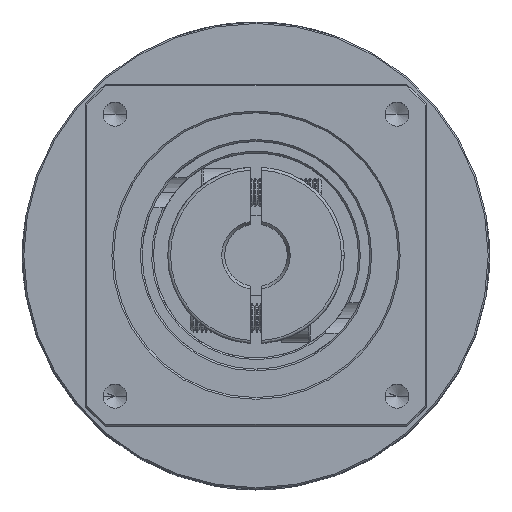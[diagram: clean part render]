
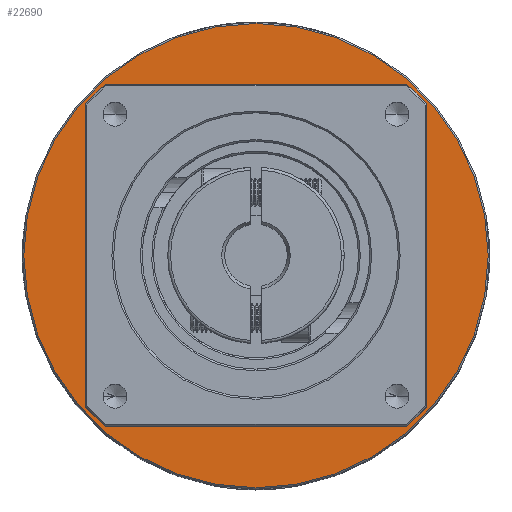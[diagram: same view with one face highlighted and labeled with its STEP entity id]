
A CAD part, top view. The second image highlights one B-rep face of the part: STEP entity #22690.
In plain terms, the highlighted planar face has unit normal (0, 0, 1).
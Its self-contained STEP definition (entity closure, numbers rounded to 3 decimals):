
#2154 = DIRECTION ( 'NONE',  ( 1., 0., 0. ) ) ;
#4396 = CARTESIAN_POINT ( 'NONE',  ( -95.061, 18.526, -26.443 ) ) ;
#4962 = DIRECTION ( 'NONE',  ( -1., 0., 0. ) ) ;
#10159 = ORIENTED_EDGE ( 'NONE', *, *, #29107, .F. ) ;
#10798 = PLANE ( 'NONE',  #109396 ) ;
#14063 = CIRCLE ( 'NONE', #96977, 30. ) ;
#14889 = ORIENTED_EDGE ( 'NONE', *, *, #94946, .T. ) ;
#20611 = EDGE_LOOP ( 'NONE', ( #71179, #10159 ) ) ;
#22690 = ADVANCED_FACE ( 'NONE', ( #34198, #57894 ), #10798, .T. ) ;
#22708 = EDGE_CURVE ( 'NONE', #45270, #103166, #25846, .T. ) ;
#24650 = EDGE_CURVE ( 'NONE', #59098, #74960, #14063, .T. ) ;
#25846 = CIRCLE ( 'NONE', #103491, 40.75 ) ;
#27159 = AXIS2_PLACEMENT_3D ( 'NONE', #96372, #43185, #105337 ) ;
#29107 = EDGE_CURVE ( 'NONE', #103166, #45270, #61901, .T. ) ;
#29511 = CARTESIAN_POINT ( 'NONE',  ( -65.061, 18.526, -26.443 ) ) ;
#30338 = AXIS2_PLACEMENT_3D ( 'NONE', #51391, #113477, #60342 ) ;
#34198 = FACE_OUTER_BOUND ( 'NONE', #20611, .T. ) ;
#38455 = DIRECTION ( 'NONE',  ( -1., 0., 0. ) ) ;
#43042 = EDGE_LOOP ( 'NONE', ( #14889, #95586 ) ) ;
#43185 = DIRECTION ( 'NONE',  ( 0., 0., -1. ) ) ;
#45270 = VERTEX_POINT ( 'NONE', #61018 ) ;
#51391 = CARTESIAN_POINT ( 'NONE',  ( -65.061, 18.526, -26.443 ) ) ;
#52046 = CARTESIAN_POINT ( 'NONE',  ( -35.061, 18.526, -26.443 ) ) ;
#55385 = CARTESIAN_POINT ( 'NONE',  ( -24.311, 18.526, -26.443 ) ) ;
#55616 = DIRECTION ( 'NONE',  ( 0., 0., 1. ) ) ;
#57894 = FACE_BOUND ( 'NONE', #43042, .T. ) ;
#58436 = DIRECTION ( 'NONE',  ( 0., 0., -1. ) ) ;
#59098 = VERTEX_POINT ( 'NONE', #52046 ) ;
#60342 = DIRECTION ( 'NONE',  ( -1., 0., 0. ) ) ;
#61018 = CARTESIAN_POINT ( 'NONE',  ( -105.811, 18.526, -26.443 ) ) ;
#61901 = CIRCLE ( 'NONE', #30338, 40.75 ) ;
#71179 = ORIENTED_EDGE ( 'NONE', *, *, #22708, .F. ) ;
#74960 = VERTEX_POINT ( 'NONE', #4396 ) ;
#91717 = DIRECTION ( 'NONE',  ( 0., 0., -1. ) ) ;
#94946 = EDGE_CURVE ( 'NONE', #74960, #59098, #97089, .T. ) ;
#95586 = ORIENTED_EDGE ( 'NONE', *, *, #24650, .T. ) ;
#96372 = CARTESIAN_POINT ( 'NONE',  ( -65.061, 18.526, -26.443 ) ) ;
#96977 = AXIS2_PLACEMENT_3D ( 'NONE', #111574, #58436, #4962 ) ;
#97089 = CIRCLE ( 'NONE', #27159, 30. ) ;
#103166 = VERTEX_POINT ( 'NONE', #55385 ) ;
#103491 = AXIS2_PLACEMENT_3D ( 'NONE', #29511, #91717, #38455 ) ;
#105337 = DIRECTION ( 'NONE',  ( -1., 0., 0. ) ) ;
#108767 = CARTESIAN_POINT ( 'NONE',  ( -65.061, 18.526, -26.443 ) ) ;
#109396 = AXIS2_PLACEMENT_3D ( 'NONE', #108767, #55616, #2154 ) ;
#111574 = CARTESIAN_POINT ( 'NONE',  ( -65.061, 18.526, -26.443 ) ) ;
#113477 = DIRECTION ( 'NONE',  ( 0., 0., -1. ) ) ;
